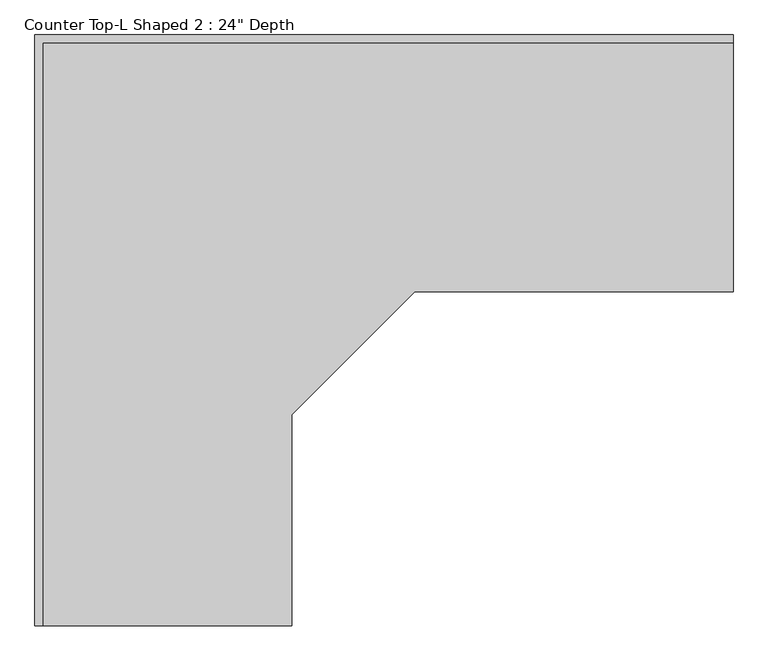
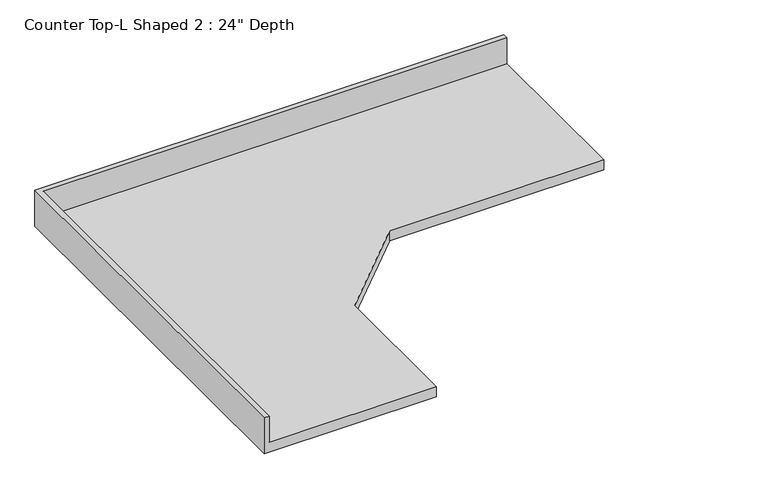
"""IFC4 building model written with IfcOpenShell, lengths in millimetres: furniture geometry."""

from ifc_helpers import new_model, si_unit, origin, place, context, project, spatial, faceted_brep, source, transform, mapped, element, save


def furniture_bfc3851b(model_context):
    return source(origin(), model_context, "Body", "Brep", [
        faceted_brep([(-565.4622951, -1461.5446213, 914.4), (-565.4622951, -939.8, 914.4), (-260.6622951, -635.0, 914.4), (526.7377049, -635.0, 914.4), (526.7377049, -19.05, 914.4), (-1181.4122951, -19.05, 914.4), (-1181.4122951, -1461.5446213, 914.4), (526.7377049, 0.0, 876.3), (526.7377049, -635.0, 876.3), (-260.6622951, -635.0, 876.3), (-565.4622951, -939.8, 876.3), (-565.4622951, -1461.5446213, 876.3), (-1200.4622951, -1461.5446213, 876.3), (-1200.4622951, 0.0, 876.3), (-1200.4622951, 0.0, 1016.0), (526.7377049, 0.0, 1016.0), (-1200.4622951, -1461.5446213, 1016.0), (-1181.4122951, -1461.5446213, 1016.0), (526.7377049, -19.05, 1016.0), (-1181.4122951, -19.05, 1016.0)], [[[0, 1, 2, 3, 4, 5, 6]], [[7, 8, 9, 10, 11, 12, 13]], [[7, 13, 14, 15]], [[13, 12, 16, 14]], [[16, 12, 11, 0, 6, 17]], [[1, 0, 11, 10]], [[2, 1, 10, 9]], [[3, 2, 9, 8]], [[8, 7, 15, 18, 4, 3]], [[14, 16, 17, 19, 18, 15]], [[4, 18, 19, 5]], [[19, 17, 6, 5]]]),
    ])


if __name__ == "__main__":
    model = new_model("IFC4")
    model_context = context("Model", 3, world=origin())
    ifc_project = project(units=[si_unit("LENGTHUNIT", "METRE", prefix="MILLI")], contexts=[model_context])
    site = spatial("IfcSite", under=ifc_project)
    building = spatial("IfcBuilding", under=site)
    placement = place(None, origin())
    furniture_shape = furniture_bfc3851b(model_context)
    element("IfcFurniture", 1, ObjectType="Counter Top-L Shaped 2 : 24\" Depth", at=placement, inside=building, context=model_context, shape_type="MappedRepresentation", body=[
        mapped(furniture_shape, transform((0.0, 0.0, 0.0), x_axis=(1.0, 0.0, 0.0), y_axis=(0.0, 1.0, 0.0), z_axis=(0.0, 0.0, 1.0))),
    ])
    save(model, "model.ifc")
